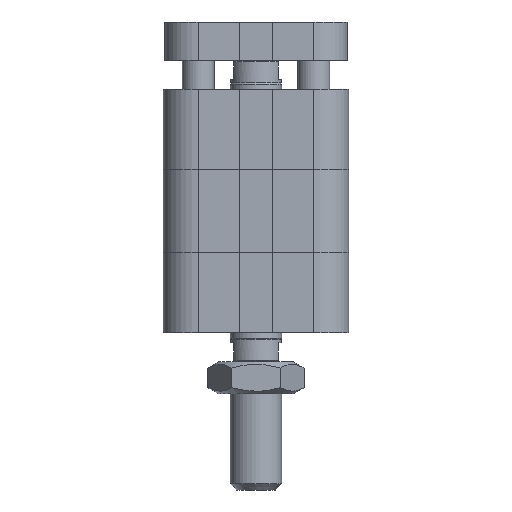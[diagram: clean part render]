
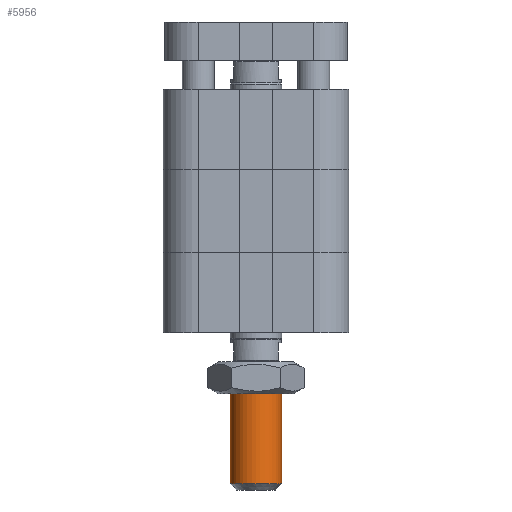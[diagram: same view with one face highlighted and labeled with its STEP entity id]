
A CAD part, front view. The second image highlights one B-rep face of the part: STEP entity #5956.
In plain terms, the highlighted cylindrical face has radius 4 mm (diameter 8 mm), a full revolution.
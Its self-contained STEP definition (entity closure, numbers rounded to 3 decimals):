
#5914=CARTESIAN_POINT('',(0.,66.,4.));
#5915=VERTEX_POINT('',#5914);
#5916=CARTESIAN_POINT('',(0.0,66.,0.0));
#5917=DIRECTION('',(0.0,1.0,0.0));
#5918=DIRECTION('',(0.0,0.0,-1.0));
#5919=AXIS2_PLACEMENT_3D('',#5916,#5917,#5918);
#5920=CIRCLE('',#5919,4.);
#5921=EDGE_CURVE('',#5915,#5915,#5920,.T.);
#5937=CARTESIAN_POINT('',(0.0,58.117,0.0));
#5938=DIRECTION('',(0.0,1.0,0.0));
#5939=DIRECTION('',(0.0,0.0,1.0));
#5940=AXIS2_PLACEMENT_3D('',#5937,#5938,#5939);
#5941=CYLINDRICAL_SURFACE('',#5940,4.);
#5942=CARTESIAN_POINT('',(0.0,49.233,4.));
#5943=VERTEX_POINT('',#5942);
#5944=CARTESIAN_POINT('',(0.0,49.233,0.0));
#5945=DIRECTION('',(0.0,1.0,0.0));
#5946=DIRECTION('',(0.0,0.0,1.0));
#5947=AXIS2_PLACEMENT_3D('',#5944,#5945,#5946);
#5948=CIRCLE('',#5947,4.);
#5949=EDGE_CURVE('',#5943,#5943,#5948,.T.);
#5950=ORIENTED_EDGE('',*,*,#5949,.T.);
#5951=EDGE_LOOP('',(#5950));
#5952=FACE_OUTER_BOUND('',#5951,.T.);
#5953=ORIENTED_EDGE('',*,*,#5921,.F.);
#5954=EDGE_LOOP('',(#5953));
#5955=FACE_BOUND('',#5954,.T.);
#5956=ADVANCED_FACE('',(#5952,#5955),#5941,.T.);
